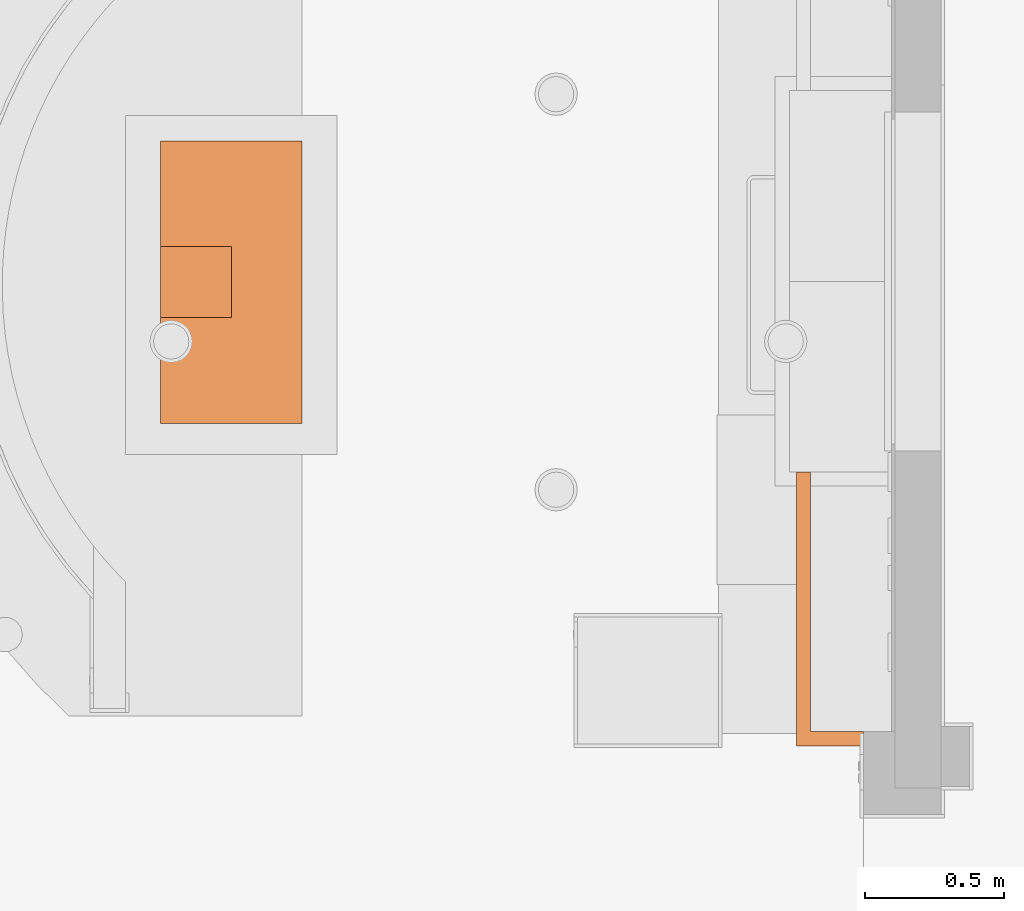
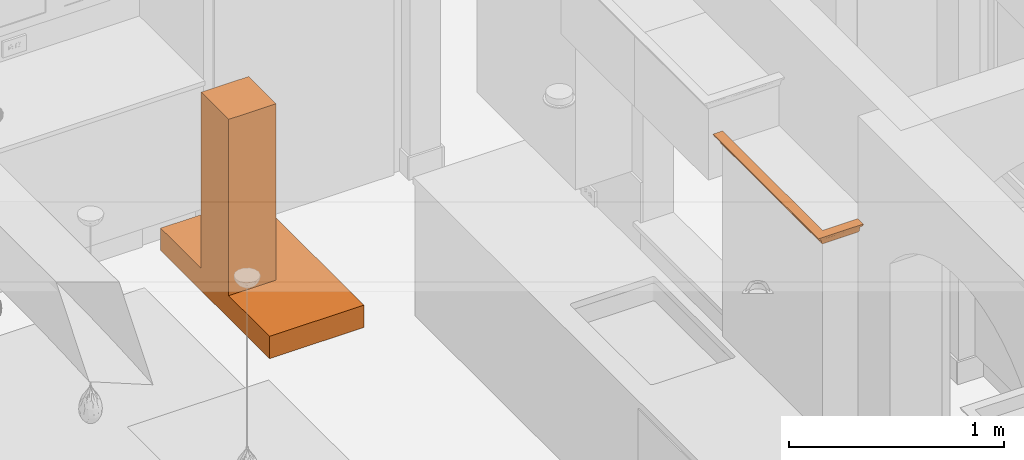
# One storey, part 73 of 81: 2 proxies.
"""IFC2X3 building model written with IfcOpenShell, lengths in feet."""

from ifc_helpers import new_model, entity, si_unit, converted_unit, derived_unit, direction, frame, origin, place, context, subcontext, project, spatial, faceted_brep, source, transform, mapped, material, type_object, type_shapes, element, save


model = new_model("IFC2X3")

# Units and contexts
model_context = context("Model", 3, precision=0.0001, world=origin(), true_north=direction((6.12303176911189e-17, 1.0)))
body_context = subcontext(model_context, "Body", "Model", "MODEL_VIEW")
ifc_project = project(units=[converted_unit("LENGTHUNIT", "FOOT", entity("IfcRatioMeasure", 0.3048), si_unit("LENGTHUNIT", "METRE"), dimensions=[1, 0, 0, 0, 0, 0, 0]), converted_unit("AREAUNIT", "SQUARE FOOT", entity("IfcRatioMeasure", 0.09290304), si_unit("AREAUNIT", "SQUARE_METRE"), dimensions=[2, 0, 0, 0, 0, 0, 0]), converted_unit("VOLUMEUNIT", "CUBIC FOOT", entity("IfcRatioMeasure", 0.028316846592), si_unit("VOLUMEUNIT", "CUBIC_METRE"), dimensions=[3, 0, 0, 0, 0, 0, 0]), converted_unit("PLANEANGLEUNIT", "DEGREE", entity("IfcRatioMeasure", 0.0174532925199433), si_unit("PLANEANGLEUNIT", "RADIAN"), dimensions=[0, 0, 0, 0, 0, 0, 0]), si_unit("MASSUNIT", "GRAM", prefix="KILO"), derived_unit("MASSDENSITYUNIT", [(si_unit("MASSUNIT", "GRAM", prefix="KILO"), 1), (si_unit("LENGTHUNIT", "METRE"), -3)]), derived_unit("MOMENTOFINERTIAUNIT", [(si_unit("LENGTHUNIT", "METRE"), 4)]), si_unit("TIMEUNIT", "SECOND"), si_unit("FREQUENCYUNIT", "HERTZ"), si_unit("THERMODYNAMICTEMPERATUREUNIT", "DEGREE_CELSIUS"), derived_unit("THERMALTRANSMITTANCEUNIT", [(si_unit("MASSUNIT", "GRAM", prefix="KILO"), 1), (si_unit("THERMODYNAMICTEMPERATUREUNIT", "KELVIN"), -1), (si_unit("TIMEUNIT", "SECOND"), -3)]), derived_unit("VOLUMETRICFLOWRATEUNIT", [(si_unit("LENGTHUNIT", "METRE"), 3), (si_unit("TIMEUNIT", "SECOND"), -1)]), si_unit("ELECTRICCURRENTUNIT", "AMPERE"), si_unit("ELECTRICVOLTAGEUNIT", "VOLT"), si_unit("POWERUNIT", "WATT"), si_unit("FORCEUNIT", "NEWTON"), si_unit("ILLUMINANCEUNIT", "LUX"), si_unit("LUMINOUSFLUXUNIT", "LUMEN"), si_unit("LUMINOUSINTENSITYUNIT", "CANDELA"), derived_unit("USERDEFINED", [(si_unit("MASSUNIT", "GRAM", prefix="KILO"), -1), (si_unit("LENGTHUNIT", "METRE"), -2), (si_unit("TIMEUNIT", "SECOND"), 3), (si_unit("LUMINOUSFLUXUNIT", "LUMEN"), 1)]), derived_unit("LINEARVELOCITYUNIT", [(si_unit("LENGTHUNIT", "METRE"), 1), (si_unit("TIMEUNIT", "SECOND"), -1)]), si_unit("PRESSUREUNIT", "PASCAL"), derived_unit("USERDEFINED", [(si_unit("LENGTHUNIT", "METRE"), -2), (si_unit("MASSUNIT", "GRAM", prefix="KILO"), 1), (si_unit("TIMEUNIT", "SECOND"), -2)]), derived_unit("LINEARFORCEUNIT", [(si_unit("MASSUNIT", "GRAM", prefix="KILO"), 1), (si_unit("LENGTHUNIT", "METRE"), 1), (si_unit("TIMEUNIT", "SECOND"), -2), (si_unit("LENGTHUNIT", "METRE"), -1)]), derived_unit("PLANARFORCEUNIT", [(si_unit("MASSUNIT", "GRAM", prefix="KILO"), 1), (si_unit("LENGTHUNIT", "METRE"), 1), (si_unit("TIMEUNIT", "SECOND"), -2), (si_unit("LENGTHUNIT", "METRE"), -2)])], contexts=[model_context])

# Site, building, storey
site_placement = place(None, origin())
site = spatial("IfcSite", under=ifc_project, at=site_placement, Name="Default", CompositionType="ELEMENT")
building_placement = place(site_placement, origin())
building = spatial("IfcBuilding", under=site, at=building_placement, CompositionType="ELEMENT")
storey_placement = place(building_placement, origin())
storey = spatial("IfcBuildingStorey", under=building, at=storey_placement, Name="First floor", CompositionType="ELEMENT", Elevation=0.0)

# Proxies
ifc_material = material(Name="Default New Material")
building_element_proxy_type_1 = type_object("IfcBuildingElementProxyType", Name="Generic Models 33:Generic Models 28", PredefinedType="NOTDEFINED", material=ifc_material)
shared_shape_1 = source(origin(), body_context, "Body", "Brep", [
    faceted_brep([(0.154525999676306, 3.23440049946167, 0.0179947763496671), (0.140565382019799, 3.23440049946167, 0.0344208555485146), (0.130772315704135, 3.23440049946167, 0.0536253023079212), (0.125675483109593, 3.23440049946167, 0.0745713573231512), (0.117492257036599, 3.23440049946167, 0.108201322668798), (0.101768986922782, 3.23440049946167, 0.139035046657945), (0.0793544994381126, 3.23440049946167, 0.165407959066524), (0.0514588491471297, 3.23440049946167, 0.185896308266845), (0.0340843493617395, 3.23440049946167, 0.198657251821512), (0.020123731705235, 3.23440049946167, 0.215083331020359), (0.0103306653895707, 3.23440049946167, 0.234287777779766), (0.00523383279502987, 3.23440049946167, 0.255233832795), (0.171900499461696, 3.23440049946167, 0.255233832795), (0.171900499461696, 3.23440049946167, 0.00523383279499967), (0.1467184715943, 0.391615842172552, 0.026213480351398), (0.134853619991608, 0.500318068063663, 0.0442426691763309), (0.146284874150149, 0.697641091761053, 0.0267335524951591), (0.125675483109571, 0.734872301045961, 0.0745713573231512), (0.133081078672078, 1.05210703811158, 0.0479768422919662), (0.154525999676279, 0.154525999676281, 0.0179947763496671), (0.158838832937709, 0.62879810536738, 0.0142195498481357), (0.171900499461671, 0.476499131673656, 0.00523383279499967), (0.171900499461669, 0.171900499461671, 0.00523383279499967), (0.171900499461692, 2.92980205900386, 0.00523383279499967), (0.171900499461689, 2.62520361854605, 0.00523383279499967), (0.159322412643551, 2.77750289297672, 0.0138246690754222), (0.125675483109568, 0.430273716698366, 0.0745713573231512), (0.156602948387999, 2.38965075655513, 0.0161179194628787), (0.147067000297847, 2.70602406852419, 0.0258009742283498), (0.135109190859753, 2.87345962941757, 0.0437376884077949), (0.130391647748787, 1.84802243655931, 0.0546709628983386), (0.134141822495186, 1.39150425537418, 0.0456910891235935), (0.125675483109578, 1.68003816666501, 0.0745713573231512), (0.12882921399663, 2.7775028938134, 0.0594490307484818), (0.153927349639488, 1.46990719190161, 0.0185573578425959), (0.15576200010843, 1.02611253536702, 0.0168641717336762), (0.14303367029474, 1.21888031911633, 0.0308981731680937), (0.171900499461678, 1.24212408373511, 0.00523383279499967), (0.171900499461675, 0.781097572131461, 0.00523383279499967), (0.140565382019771, 0.140565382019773, 0.0344208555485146), (0.130772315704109, 0.13077231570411, 0.0536253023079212), (0.134048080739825, 2.2923265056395, 0.0458866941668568), (0.125675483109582, 2.01600721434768, 0.0745713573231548), (0.125675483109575, 1.34406911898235, 0.0745713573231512), (0.139353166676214, 1.68003798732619, 0.0362872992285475), (0.143542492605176, 2.39152722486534, 0.0302132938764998), (0.141288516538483, 2.05486898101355, 0.0333523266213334), (0.133440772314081, 2.58606096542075, 0.0471833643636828), (0.125675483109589, 2.92980191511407, 0.0745713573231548), (0.125675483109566, 0.125675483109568, 0.0745713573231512), (0.153411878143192, 1.93366379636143, 0.0190498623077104), (0.171900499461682, 1.70315059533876, 0.00523383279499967), (0.171900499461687, 2.1641771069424, 0.00523383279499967), (0.125675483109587, 2.62520368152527, 0.0745713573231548), (0.125675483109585, 2.32060544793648, 0.0745713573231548), (0.125675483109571, 0.908122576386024, 0.0745713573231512), (0.125675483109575, 1.03947088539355, 0.0745713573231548), (0.125675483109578, 1.69056970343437, 0.0745713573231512), (0.125675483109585, 2.46248510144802, 0.0745713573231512), (0.11052918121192, 2.77857660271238, 0.124076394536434), (0.0793544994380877, 0.0793544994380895, 0.165407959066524), (0.0514588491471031, 0.0514588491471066, 0.185896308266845), (0.0340843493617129, 0.0340843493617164, 0.198657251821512), (0.0514588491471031, 0.356057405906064, 0.185896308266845), (0.0514588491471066, 0.660655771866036, 0.185896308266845), (0.0514588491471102, 0.82337423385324, 0.185896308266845), (0.051458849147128, 2.92980213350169, 0.185896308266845), (0.101768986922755, 0.101768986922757, 0.139035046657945), (0.0903972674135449, 0.738061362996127, 0.153961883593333), (0.110195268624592, 0.580938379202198, 0.124727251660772), (0.120393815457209, 2.32015400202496, 0.0995782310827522), (0.121190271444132, 2.77747361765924, 0.0968548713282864), (0.109796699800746, 1.13770168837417, 0.125493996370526), (0.0907493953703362, 1.2667802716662, 0.153554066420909), (0.104535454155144, 1.61360250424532, 0.134726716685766), (0.121122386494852, 0.58529043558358, 0.0970947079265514), (0.120175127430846, 1.0554298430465, 0.100293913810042), (0.0913303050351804, 2.60278740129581, 0.152874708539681), (0.110529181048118, 2.23485809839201, 0.124076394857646), (0.11749225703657, 0.117492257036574, 0.108201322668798), (0.0876881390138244, 1.78967373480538, 0.157002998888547), (0.0711960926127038, 2.76248004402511, 0.172472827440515), (0.0746629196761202, 2.22979278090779, 0.169596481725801), (0.0514588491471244, 2.46248511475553, 0.185896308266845), (0.0514588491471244, 2.62520376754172, 0.185896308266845), (0.117569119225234, 1.63092976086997, 0.10799359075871), (0.0514588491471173, 1.59528971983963, 0.185896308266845), (0.0514588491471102, 1.15179277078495, 0.185896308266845), (0.0514588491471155, 1.64292976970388, 0.185896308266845), (0.0514588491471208, 2.1340667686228, 0.185896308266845), (0.0262768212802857, 0.271174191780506, 0.206875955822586), (0.0144119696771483, 0.379876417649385, 0.224905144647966), (0.0258432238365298, 0.57719944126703, 0.20739602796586), (0.005233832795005, 0.614430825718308, 0.255233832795), (0.0126394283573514, 0.931665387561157, 0.22863931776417), (0.0383971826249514, 0.508356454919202, 0.194882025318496), (0.0146675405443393, 2.87345962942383, 0.224400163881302), (0.0266253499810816, 2.7060240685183, 0.206463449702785), (0.00523383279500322, 0.309832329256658, 0.255233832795), (0.0223642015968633, 0.896529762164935, 0.21187160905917), (0.036296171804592, 2.37963518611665, 0.19666239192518), (0.0388807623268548, 2.7775028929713, 0.194487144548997), (0.00874963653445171, 1.81791202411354, 0.23892270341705), (0.0158206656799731, 1.96075587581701, 0.222211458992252), (0.015130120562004, 1.61981716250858, 0.223505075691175), (0.00838756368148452, 2.77750289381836, 0.240111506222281), (0.00960752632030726, 1.35396569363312, 0.236309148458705), (0.018139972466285, 1.25403505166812, 0.218191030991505), (0.0354179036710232, 0.915539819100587, 0.197439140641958), (0.0201237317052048, 0.0201237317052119, 0.215083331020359), (0.0103306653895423, 0.0103306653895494, 0.234287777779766), (0.00523383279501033, 1.22362747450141, 0.255233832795), (0.00523383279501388, 1.61981716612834, 0.255233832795), (0.0316691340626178, 1.3973611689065, 0.200989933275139), (0.0136064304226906, 2.29232650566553, 0.22654916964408), (0.00523383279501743, 2.01600720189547, 0.255233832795), (0.0303240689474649, 1.88849817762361, 0.202365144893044), (0.0231687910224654, 2.3896101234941, 0.210785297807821), (0.0129991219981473, 2.58606096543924, 0.227845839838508), (0.00523383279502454, 2.92980200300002, 0.255233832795), (0.00523383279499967, 0.00523383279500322, 0.255233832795), (0.00523383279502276, 2.62520385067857, 0.255233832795), (0.00523383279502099, 2.32060569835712, 0.255233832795), (0.00523383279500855, 0.919029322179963, 0.255233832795), (0.171900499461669, 0.171900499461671, 0.255233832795), (0.796900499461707, 0.171900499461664, 0.00523383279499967), (0.796900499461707, 0.171900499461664, 0.255233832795), (0.796900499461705, 0.00523383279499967, 0.255233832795), (0.796900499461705, 0.0103306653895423, 0.234287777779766), (0.796900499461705, 0.0201237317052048, 0.215083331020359), (0.796900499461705, 0.0340843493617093, 0.198657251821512), (0.796900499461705, 0.0514588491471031, 0.185896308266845), (0.796900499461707, 0.0793544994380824, 0.165407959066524), (0.796900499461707, 0.10176898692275, 0.139035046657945), (0.796900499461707, 0.117492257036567, 0.108201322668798), (0.796900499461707, 0.125675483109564, 0.0745713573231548), (0.796900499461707, 0.130772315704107, 0.0536253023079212), (0.796900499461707, 0.140565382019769, 0.0344208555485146), (0.796900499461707, 0.154525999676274, 0.0179947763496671), (0.531159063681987, 0.158525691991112, 0.0144781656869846), (0.477037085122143, 0.147067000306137, 0.0258009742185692), (0.430273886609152, 0.125675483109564, 0.0745713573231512), (0.525976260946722, 0.128952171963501, 0.0590388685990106), (0.468732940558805, 0.135109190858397, 0.0437376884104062), (0.492301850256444, 0.171900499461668, 0.00523383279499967), (0.492302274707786, 0.0514588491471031, 0.185896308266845), (0.471080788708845, 0.0266253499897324, 0.206463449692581), (0.33297949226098, 0.038398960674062, 0.194880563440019), (0.408512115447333, 0.014667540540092, 0.224400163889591), (0.309832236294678, 0.00523383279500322, 0.255233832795), (0.502792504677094, 0.00817440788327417, 0.240839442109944)], [[[0, 1, 2, 3, 4, 5, 6, 7, 8, 9, 10, 11, 12, 13]], [[14, 15, 16]], [[17, 18, 15]], [[19, 14, 20]], [[19, 21, 22]], [[0, 13, 23]], [[24, 25, 23]], [[17, 15, 26]], [[18, 16, 15]], [[27, 25, 24]], [[1, 0, 28]], [[25, 0, 23]], [[29, 1, 28]], [[30, 31, 32]], [[33, 2, 29]], [[34, 35, 36]], [[35, 37, 38]], [[15, 39, 40]], [[19, 39, 14]], [[1, 29, 2]], [[41, 30, 42]], [[20, 35, 38]], [[15, 40, 26]], [[43, 31, 18]], [[44, 36, 31]], [[41, 45, 46]], [[45, 47, 28]], [[2, 48, 3]], [[40, 49, 26]], [[50, 51, 34]], [[44, 31, 30]], [[51, 50, 52]], [[27, 28, 25]], [[37, 35, 34]], [[27, 45, 28]], [[19, 20, 21]], [[38, 21, 20]], [[20, 16, 35]], [[18, 36, 16]], [[36, 44, 34]], [[50, 34, 44]], [[51, 37, 34]], [[27, 24, 52]], [[0, 25, 28]], [[52, 50, 27]], [[46, 45, 27]], [[2, 33, 48]], [[53, 48, 33]], [[47, 33, 29]], [[28, 47, 29]], [[41, 54, 47]], [[16, 36, 35]], [[36, 18, 31]], [[18, 17, 55, 56, 43]], [[31, 43, 32]], [[30, 32, 57, 42]], [[47, 54, 58, 53]], [[46, 30, 41]], [[46, 27, 50]], [[47, 45, 41]], [[50, 44, 46]], [[30, 46, 44]], [[15, 14, 39]], [[20, 14, 16]], [[41, 42, 54]], [[53, 33, 47]], [[59, 5, 4]], [[60, 61, 62, 63, 64, 65]], [[8, 7, 66]], [[67, 68, 69]], [[70, 71, 58]], [[4, 71, 59]], [[72, 73, 74]], [[75, 55, 17, 26, 49]], [[72, 76, 69]], [[67, 60, 68]], [[77, 59, 78]], [[77, 6, 5]], [[73, 68, 65]], [[69, 79, 67]], [[76, 75, 69]], [[77, 78, 80]], [[81, 77, 82]], [[81, 83, 84, 66, 7]], [[76, 72, 85]], [[68, 60, 65]], [[77, 81, 6]], [[3, 71, 4]], [[80, 86, 82]], [[73, 65, 87, 86]], [[72, 74, 85]], [[79, 69, 75]], [[72, 69, 68]], [[5, 59, 77]], [[59, 71, 70]], [[79, 75, 49]], [[76, 55, 75]], [[76, 57, 32, 43, 56, 55]], [[57, 76, 85]], [[70, 58, 54, 42, 57]], [[80, 78, 74]], [[78, 59, 70]], [[71, 3, 48, 53, 58]], [[70, 85, 78]], [[85, 70, 57]], [[85, 74, 78]], [[80, 74, 73]], [[80, 73, 86]], [[68, 73, 72]], [[6, 81, 7]], [[83, 81, 82]], [[82, 86, 88, 89, 83]], [[80, 82, 77]], [[90, 91, 92]], [[93, 94, 91]], [[62, 90, 95]], [[96, 9, 97]], [[93, 91, 98]], [[94, 99, 91]], [[100, 101, 84]], [[102, 103, 104]], [[101, 8, 66]], [[97, 9, 8]], [[105, 10, 96]], [[84, 101, 66]], [[106, 104, 107]], [[95, 108, 64]], [[91, 109, 110]], [[62, 109, 90]], [[9, 96, 10]], [[91, 110, 98]], [[111, 106, 94]], [[106, 112, 102]], [[107, 113, 99]], [[114, 102, 115]], [[99, 113, 108]], [[116, 88, 113]], [[117, 118, 97]], [[10, 119, 11]], [[110, 120, 98]], [[113, 88, 86, 87]], [[114, 103, 102]], [[88, 116, 89]], [[100, 97, 101]], [[100, 117, 97]], [[108, 87, 65, 64]], [[104, 116, 113]], [[62, 95, 63]], [[64, 63, 95]], [[95, 92, 108]], [[99, 108, 92]], [[113, 87, 108]], [[100, 84, 83, 89]], [[8, 101, 97]], [[89, 116, 100]], [[116, 103, 117]], [[10, 105, 119]], [[121, 119, 105]], [[118, 105, 96]], [[97, 118, 96]], [[114, 122, 118]], [[91, 90, 109]], [[95, 90, 92]], [[116, 117, 100]], [[118, 117, 114]], [[91, 99, 92]], [[99, 94, 107]], [[94, 93, 123, 111]], [[113, 107, 104]], [[94, 106, 107]], [[112, 115, 102]], [[106, 111, 112]], [[118, 122, 121]], [[106, 102, 104]], [[117, 103, 114]], [[116, 104, 103]], [[114, 115, 122]], [[121, 105, 118]], [[13, 12, 124, 22, 21, 38, 37, 51, 52, 24, 23]], [[125, 126, 127, 128, 129, 130, 131, 132, 133, 134, 135, 136, 137, 138]], [[22, 139, 19]], [[19, 139, 140]], [[138, 139, 125]], [[137, 140, 138]], [[49, 40, 141, 135, 134, 79]], [[142, 143, 136]], [[137, 143, 140]], [[125, 139, 22, 144]], [[40, 143, 142]], [[140, 139, 138]], [[143, 137, 136]], [[140, 39, 19]], [[39, 140, 143]], [[142, 135, 141]], [[135, 142, 136]], [[40, 142, 141]], [[40, 39, 143]], [[133, 67, 79, 134]], [[60, 132, 131, 130, 145, 61]], [[67, 133, 132, 60]], [[130, 146, 147]], [[61, 147, 62]], [[109, 146, 148]], [[120, 110, 149]], [[150, 148, 128]], [[130, 129, 146]], [[130, 147, 145]], [[110, 148, 150]], [[147, 146, 62]], [[148, 129, 128]], [[146, 109, 62]], [[129, 148, 146]], [[150, 127, 149]], [[145, 147, 61]], [[127, 150, 128]], [[110, 150, 149]], [[110, 109, 148]], [[22, 124, 126, 125, 144]], [[11, 119, 121, 122, 115, 112, 111, 123, 93, 98, 120, 149, 127, 126, 124, 12]]]),
])
type_shapes(building_element_proxy_type_1, [shared_shape_1])
proxy_1_placement = place(storey_placement, frame((11.744766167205, 16.1819210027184, 18.494766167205)))
element("IfcBuildingElementProxy", 1, at=proxy_1_placement, inside=storey, type_object=building_element_proxy_type_1, material=ifc_material, Name="Generic Models 33:Generic Models 28", ObjectType="Generic Models 33:Generic Models 28", context=body_context, shape_type="MappedRepresentation", body=[
    mapped(shared_shape_1, transform((0.0, 0.0, 0.0), scale=1.0)),
])
building_element_proxy_type_2 = type_object("IfcBuildingElementProxyType", Name="Specialty Equipment 2:Specialty Equipment 2", PredefinedType="NOTDEFINED", material=ifc_material)
shared_shape_2 = source(origin(), body_context, "Body", "Brep", [
    faceted_brep([(1.66666666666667, 0.0, 0.416666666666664), (1.66666666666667, 3.33333333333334, 0.416666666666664), (0.0, 3.33333333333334, 0.416666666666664), (0.0, 2.09004448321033, 0.416666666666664), (0.838531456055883, 2.09004448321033, 0.416666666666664), (0.838531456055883, 1.25092011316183, 0.416666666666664), (0.0, 1.25092011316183, 0.416666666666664), (0.0, 0.0, 0.416666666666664), (1.66666666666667, 0.0, 0.0), (0.0, 0.0, 0.0), (0.0, 3.33333333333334, 0.0), (1.66666666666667, 3.33333333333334, 0.0), (0.0, 1.25092011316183, 3.70833333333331), (0.0, 2.09004448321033, 3.70833333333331), (0.838531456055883, 1.25092011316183, 3.70833333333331), (0.838531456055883, 2.09004448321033, 3.70833333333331)], [[[0, 1, 2, 3, 4, 5, 6, 7]], [[8, 9, 10, 11]], [[0, 7, 9, 8]], [[10, 9, 7, 6, 12, 13, 3, 2]], [[2, 1, 11, 10]], [[1, 0, 8, 11]], [[14, 15, 13, 12]], [[15, 14, 5, 4]], [[13, 15, 4, 3]], [[14, 12, 6, 5]]]),
])
type_shapes(building_element_proxy_type_2, [shared_shape_2])
proxy_2_placement = place(storey_placement, frame((4.25000000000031, 19.9895133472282, 16.8333333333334)))
element("IfcBuildingElementProxy", 2, at=proxy_2_placement, inside=storey, type_object=building_element_proxy_type_2, material=ifc_material, Name="Specialty Equipment 2:Specialty Equipment 2", ObjectType="Specialty Equipment 2:Specialty Equipment 2", context=body_context, shape_type="MappedRepresentation", body=[
    mapped(shared_shape_2, transform((0.0, 0.0, 0.0), scale=1.0)),
])

save(model, "model.ifc")
